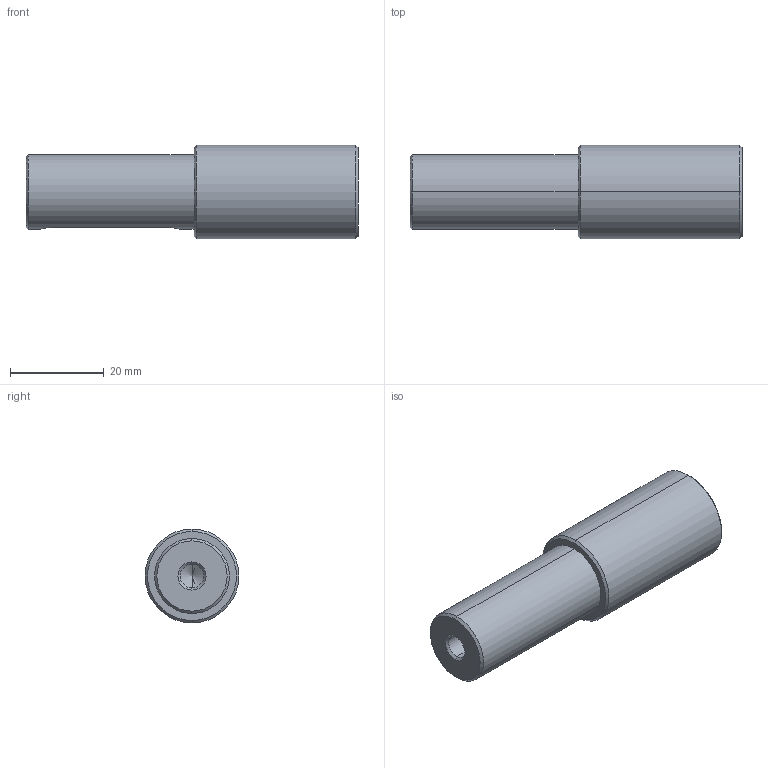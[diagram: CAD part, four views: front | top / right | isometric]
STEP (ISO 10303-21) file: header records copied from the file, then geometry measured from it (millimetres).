
FILE_DESCRIPTION (( 'STEP AP214' ), '1' );
FILE_NAME ('1.8048 Akseli 45 20_16 L70.9 kiila 5x30.STEP', '2024-03-15T06:55:02', ( '' ), ( '' ), 'SwSTEP 2.0', 'SolidWorks 2024', '' );
FILE_SCHEMA (( 'AUTOMOTIVE_DESIGN' ));
Length unit declared in the file: millimetre
Products named in the file (1): 1.8048 Akseli 45 20_16 L70.9 kiila 5x30
Bounding box: 70.9 x 20 x 20 mm (x, y, z)
Volume: 17254.2 mm3; surface area: 5158.4 mm2
Topology: 1 solids, 1 shells, 25 faces, 55 edges, 32 vertices
Faces by surface type: cone 10, cylinder 9, plane 6
Entity records: 749 total; most frequent: CARTESIAN_POINT 175, DIRECTION 124, ORIENTED_EDGE 106, EDGE_CURVE 53, AXIS2_PLACEMENT_3D 49, VERTEX_POINT 32, EDGE_LOOP 27, VECTOR 26
